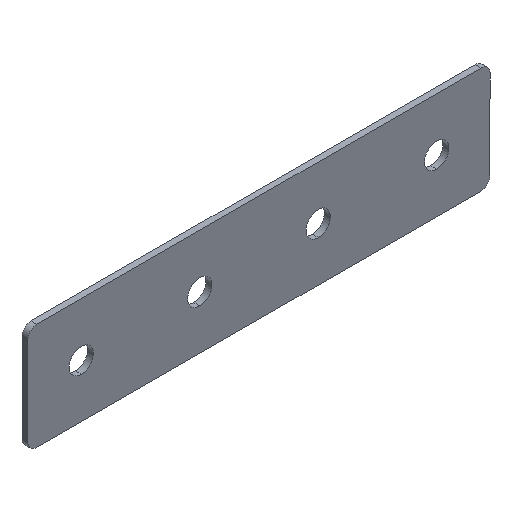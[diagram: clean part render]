
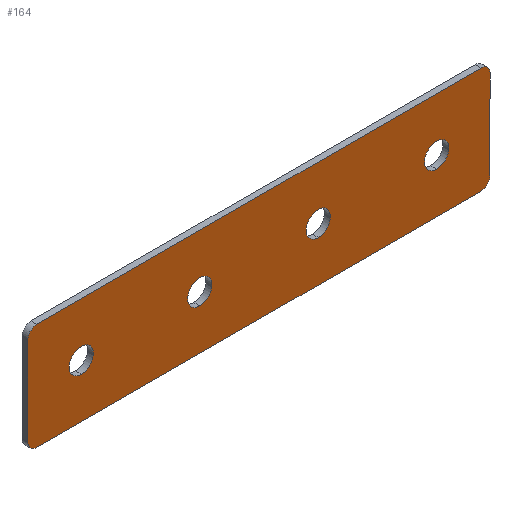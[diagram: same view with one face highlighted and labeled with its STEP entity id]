
A CAD part, isometric view. The second image highlights one B-rep face of the part: STEP entity #164.
In plain terms, the highlighted planar face has unit normal (0, -1, 0).
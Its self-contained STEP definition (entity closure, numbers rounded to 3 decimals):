
#5 = DIRECTION ( 'NONE',  ( 0., 0., 1. ) ) ;
#12 = AXIS2_PLACEMENT_3D ( 'NONE', #665, #398, #445 ) ;
#17 = EDGE_LOOP ( 'NONE', ( #419, #251 ) ) ;
#25 = EDGE_CURVE ( 'NONE', #290, #139, #173, .T. ) ;
#31 = DIRECTION ( 'NONE',  ( 0., 0., -1. ) ) ;
#43 = VERTEX_POINT ( 'NONE', #489 ) ;
#54 = EDGE_CURVE ( 'NONE', #205, #369, #569, .T. ) ;
#58 = EDGE_CURVE ( 'NONE', #139, #290, #62, .T. ) ;
#60 = CIRCLE ( 'NONE', #12, 4.1 ) ;
#62 = CIRCLE ( 'NONE', #99, 4.1 ) ;
#63 = EDGE_CURVE ( 'NONE', #255, #433, #437, .T. ) ;
#77 = ORIENTED_EDGE ( 'NONE', *, *, #505, .T. ) ;
#78 = VERTEX_POINT ( 'NONE', #88 ) ;
#79 = DIRECTION ( 'NONE',  ( 0., 0., -1. ) ) ;
#83 = VECTOR ( 'NONE', #134, 1000. ) ;
#85 = DIRECTION ( 'NONE',  ( 0., 0., -1. ) ) ;
#86 = VERTEX_POINT ( 'NONE', #545 ) ;
#88 = CARTESIAN_POINT ( 'NONE',  ( 7.865, 0., -1.965 ) ) ;
#96 = EDGE_CURVE ( 'NONE', #78, #43, #621, .T. ) ;
#99 = AXIS2_PLACEMENT_3D ( 'NONE', #395, #186, #85 ) ;
#106 = FACE_BOUND ( 'NONE', #632, .T. ) ;
#107 = AXIS2_PLACEMENT_3D ( 'NONE', #342, #339, #438 ) ;
#112 = ORIENTED_EDGE ( 'NONE', *, *, #206, .T. ) ;
#114 = ORIENTED_EDGE ( 'NONE', *, *, #54, .F. ) ;
#124 = ORIENTED_EDGE ( 'NONE', *, *, #96, .T. ) ;
#131 = LINE ( 'NONE', #541, #83 ) ;
#132 = CIRCLE ( 'NONE', #319, 2.981 ) ;
#134 = DIRECTION ( 'NONE',  ( 0., 0., -1. ) ) ;
#139 = VERTEX_POINT ( 'NONE', #550 ) ;
#141 = CARTESIAN_POINT ( 'NONE',  ( 142.885, 0., 20.135 ) ) ;
#144 = AXIS2_PLACEMENT_3D ( 'NONE', #539, #594, #239 ) ;
#146 = ORIENTED_EDGE ( 'NONE', *, *, #542, .F. ) ;
#157 = VERTEX_POINT ( 'NONE', #284 ) ;
#164 = ADVANCED_FACE ( 'NONE', ( #106, #490, #313, #273, #416 ), #261, .F. ) ;
#168 = AXIS2_PLACEMENT_3D ( 'NONE', #491, #657, #190 ) ;
#173 = CIRCLE ( 'NONE', #144, 4.1 ) ;
#181 = CARTESIAN_POINT ( 'NONE',  ( -7.154, 0., 20.135 ) ) ;
#186 = DIRECTION ( 'NONE',  ( 0., 1., 0. ) ) ;
#190 = DIRECTION ( 'NONE',  ( 0., 0., -1. ) ) ;
#193 = DIRECTION ( 'NONE',  ( 0., 1., 0. ) ) ;
#196 = CARTESIAN_POINT ( 'NONE',  ( 87.865, 0., 6.235 ) ) ;
#200 = VECTOR ( 'NONE', #336, 1000. ) ;
#205 = VERTEX_POINT ( 'NONE', #667 ) ;
#206 = EDGE_CURVE ( 'NONE', #86, #457, #393, .T. ) ;
#229 = EDGE_CURVE ( 'NONE', #457, #86, #583, .T. ) ;
#233 = VERTEX_POINT ( 'NONE', #293 ) ;
#236 = AXIS2_PLACEMENT_3D ( 'NONE', #243, #399, #79 ) ;
#237 = CARTESIAN_POINT ( 'NONE',  ( 142.885, 0., -15.865 ) ) ;
#239 = DIRECTION ( 'NONE',  ( 0., 0., -1. ) ) ;
#243 = CARTESIAN_POINT ( 'NONE',  ( 7.865, 0., 2.135 ) ) ;
#244 = VERTEX_POINT ( 'NONE', #141 ) ;
#246 = CARTESIAN_POINT ( 'NONE',  ( 142.885, 0., 17.154 ) ) ;
#247 = CARTESIAN_POINT ( 'NONE',  ( 47.865, 0., -1.965 ) ) ;
#248 = DIRECTION ( 'NONE',  ( 0., 1., 0. ) ) ;
#249 = DIRECTION ( 'NONE',  ( 0., 1., 0. ) ) ;
#250 = CARTESIAN_POINT ( 'NONE',  ( 127.865, 0., 6.235 ) ) ;
#251 = ORIENTED_EDGE ( 'NONE', *, *, #63, .T. ) ;
#255 = VERTEX_POINT ( 'NONE', #247 ) ;
#258 = EDGE_LOOP ( 'NONE', ( #264, #112 ) ) ;
#260 = AXIS2_PLACEMENT_3D ( 'NONE', #622, #318, #5 ) ;
#261 = PLANE ( 'NONE',  #260 ) ;
#264 = ORIENTED_EDGE ( 'NONE', *, *, #229, .T. ) ;
#273 = FACE_BOUND ( 'NONE', #397, .T. ) ;
#281 = CARTESIAN_POINT ( 'NONE',  ( 145.865, 0., 17.154 ) ) ;
#284 = CARTESIAN_POINT ( 'NONE',  ( -7.154, 0., 20.135 ) ) ;
#288 = CARTESIAN_POINT ( 'NONE',  ( 47.865, 0., 2.135 ) ) ;
#290 = VERTEX_POINT ( 'NONE', #250 ) ;
#293 = CARTESIAN_POINT ( 'NONE',  ( -10.135, 0., -12.885 ) ) ;
#294 = VECTOR ( 'NONE', #492, 1000. ) ;
#299 = EDGE_CURVE ( 'NONE', #369, #233, #507, .T. ) ;
#311 = CARTESIAN_POINT ( 'NONE',  ( 47.865, 0., 2.135 ) ) ;
#313 = FACE_BOUND ( 'NONE', #258, .T. ) ;
#314 = DIRECTION ( 'NONE',  ( 0., 0., -1. ) ) ;
#318 = DIRECTION ( 'NONE',  ( 0., 1., 0. ) ) ;
#319 = AXIS2_PLACEMENT_3D ( 'NONE', #350, #193, #406 ) ;
#323 = CIRCLE ( 'NONE', #107, 2.981 ) ;
#336 = DIRECTION ( 'NONE',  ( 1., 0., 0. ) ) ;
#339 = DIRECTION ( 'NONE',  ( 0., 1., 0. ) ) ;
#342 = CARTESIAN_POINT ( 'NONE',  ( 142.885, 0., -12.885 ) ) ;
#343 = EDGE_CURVE ( 'NONE', #433, #255, #357, .T. ) ;
#350 = CARTESIAN_POINT ( 'NONE',  ( -7.154, 0., 17.154 ) ) ;
#353 = CARTESIAN_POINT ( 'NONE',  ( 47.865, 0., 6.235 ) ) ;
#357 = CIRCLE ( 'NONE', #631, 4.1 ) ;
#369 = VERTEX_POINT ( 'NONE', #672 ) ;
#376 = ORIENTED_EDGE ( 'NONE', *, *, #528, .F. ) ;
#391 = DIRECTION ( 'NONE',  ( 0., 1., 0. ) ) ;
#393 = CIRCLE ( 'NONE', #604, 4.1 ) ;
#395 = CARTESIAN_POINT ( 'NONE',  ( 127.865, 0., 2.135 ) ) ;
#397 = EDGE_LOOP ( 'NONE', ( #619, #426 ) ) ;
#398 = DIRECTION ( 'NONE',  ( 0., 1., 0. ) ) ;
#399 = DIRECTION ( 'NONE',  ( 0., 1., 0. ) ) ;
#401 = DIRECTION ( 'NONE',  ( 0., 0., -1. ) ) ;
#403 = AXIS2_PLACEMENT_3D ( 'NONE', #246, #248, #500 ) ;
#406 = DIRECTION ( 'NONE',  ( 0., 0., 1. ) ) ;
#416 = FACE_OUTER_BOUND ( 'NONE', #429, .T. ) ;
#418 = AXIS2_PLACEMENT_3D ( 'NONE', #288, #391, #31 ) ;
#419 = ORIENTED_EDGE ( 'NONE', *, *, #343, .T. ) ;
#422 = VERTEX_POINT ( 'NONE', #610 ) ;
#426 = ORIENTED_EDGE ( 'NONE', *, *, #58, .T. ) ;
#429 = EDGE_LOOP ( 'NONE', ( #585, #471, #510, #114, #146, #526, #529, #376 ) ) ;
#430 = EDGE_CURVE ( 'NONE', #422, #157, #132, .T. ) ;
#433 = VERTEX_POINT ( 'NONE', #353 ) ;
#437 = CIRCLE ( 'NONE', #418, 4.1 ) ;
#438 = DIRECTION ( 'NONE',  ( 0., 0., 1. ) ) ;
#440 = DIRECTION ( 'NONE',  ( -1., 0., 0. ) ) ;
#443 = CARTESIAN_POINT ( 'NONE',  ( -10.135, 0., -12.885 ) ) ;
#445 = DIRECTION ( 'NONE',  ( 0., 0., -1. ) ) ;
#447 = EDGE_CURVE ( 'NONE', #244, #615, #523, .T. ) ;
#456 = DIRECTION ( 'NONE',  ( 0., 1., 0. ) ) ;
#457 = VERTEX_POINT ( 'NONE', #196 ) ;
#471 = ORIENTED_EDGE ( 'NONE', *, *, #514, .F. ) ;
#482 = LINE ( 'NONE', #181, #200 ) ;
#489 = CARTESIAN_POINT ( 'NONE',  ( 7.865, 0., 6.235 ) ) ;
#490 = FACE_BOUND ( 'NONE', #17, .T. ) ;
#491 = CARTESIAN_POINT ( 'NONE',  ( 87.865, 0., 2.135 ) ) ;
#492 = DIRECTION ( 'NONE',  ( 0., 0., 1. ) ) ;
#495 = DIRECTION ( 'NONE',  ( 0., 1., 0. ) ) ;
#500 = DIRECTION ( 'NONE',  ( 0., 0., 1. ) ) ;
#505 = EDGE_CURVE ( 'NONE', #43, #78, #60, .T. ) ;
#507 = CIRCLE ( 'NONE', #639, 2.981 ) ;
#508 = VECTOR ( 'NONE', #440, 1000. ) ;
#510 = ORIENTED_EDGE ( 'NONE', *, *, #299, .F. ) ;
#514 = EDGE_CURVE ( 'NONE', #233, #422, #599, .T. ) ;
#523 = CIRCLE ( 'NONE', #403, 2.981 ) ;
#526 = ORIENTED_EDGE ( 'NONE', *, *, #578, .F. ) ;
#528 = EDGE_CURVE ( 'NONE', #157, #244, #482, .T. ) ;
#529 = ORIENTED_EDGE ( 'NONE', *, *, #447, .F. ) ;
#539 = CARTESIAN_POINT ( 'NONE',  ( 127.865, 0., 2.135 ) ) ;
#541 = CARTESIAN_POINT ( 'NONE',  ( 145.865, 0., 17.154 ) ) ;
#542 = EDGE_CURVE ( 'NONE', #576, #205, #323, .T. ) ;
#545 = CARTESIAN_POINT ( 'NONE',  ( 87.865, 0., -1.965 ) ) ;
#550 = CARTESIAN_POINT ( 'NONE',  ( 127.865, 0., -1.965 ) ) ;
#569 = LINE ( 'NONE', #237, #508 ) ;
#576 = VERTEX_POINT ( 'NONE', #593 ) ;
#578 = EDGE_CURVE ( 'NONE', #615, #576, #131, .T. ) ;
#583 = CIRCLE ( 'NONE', #168, 4.1 ) ;
#585 = ORIENTED_EDGE ( 'NONE', *, *, #430, .F. ) ;
#593 = CARTESIAN_POINT ( 'NONE',  ( 145.865, 0., -12.885 ) ) ;
#594 = DIRECTION ( 'NONE',  ( 0., 1., 0. ) ) ;
#599 = LINE ( 'NONE', #443, #294 ) ;
#604 = AXIS2_PLACEMENT_3D ( 'NONE', #606, #495, #401 ) ;
#606 = CARTESIAN_POINT ( 'NONE',  ( 87.865, 0., 2.135 ) ) ;
#607 = DIRECTION ( 'NONE',  ( 0., 0., 1. ) ) ;
#610 = CARTESIAN_POINT ( 'NONE',  ( -10.135, 0., 17.154 ) ) ;
#615 = VERTEX_POINT ( 'NONE', #281 ) ;
#619 = ORIENTED_EDGE ( 'NONE', *, *, #25, .T. ) ;
#621 = CIRCLE ( 'NONE', #236, 4.1 ) ;
#622 = CARTESIAN_POINT ( 'NONE',  ( -7.154, 0., 17.154 ) ) ;
#631 = AXIS2_PLACEMENT_3D ( 'NONE', #311, #456, #314 ) ;
#632 = EDGE_LOOP ( 'NONE', ( #77, #124 ) ) ;
#639 = AXIS2_PLACEMENT_3D ( 'NONE', #666, #249, #607 ) ;
#657 = DIRECTION ( 'NONE',  ( 0., 1., 0. ) ) ;
#665 = CARTESIAN_POINT ( 'NONE',  ( 7.865, 0., 2.135 ) ) ;
#666 = CARTESIAN_POINT ( 'NONE',  ( -7.154, 0., -12.885 ) ) ;
#667 = CARTESIAN_POINT ( 'NONE',  ( 142.885, 0., -15.865 ) ) ;
#672 = CARTESIAN_POINT ( 'NONE',  ( -7.154, 0., -15.865 ) ) ;
